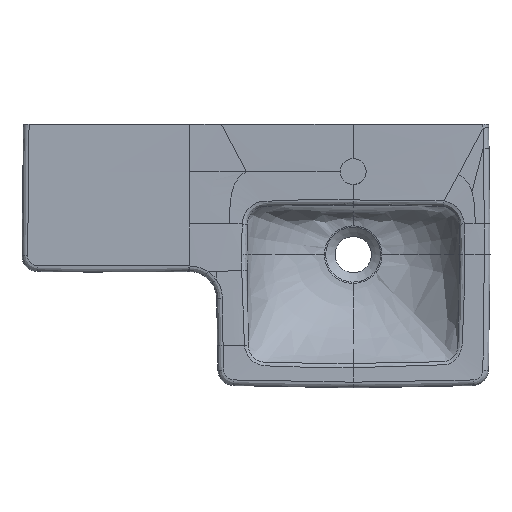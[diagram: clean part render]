
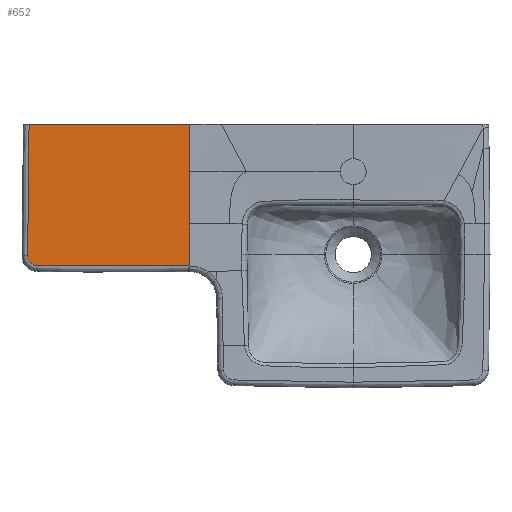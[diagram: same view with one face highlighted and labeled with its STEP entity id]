
A CAD part, top view. The second image highlights one B-rep face of the part: STEP entity #652.
In plain terms, the highlighted free-form (B-spline) face has degree [3, 3] with [6, 4] control points.
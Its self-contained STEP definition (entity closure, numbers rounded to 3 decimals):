
#80=B_SPLINE_SURFACE_WITH_KNOTS('',3,3,((#15106,#15107,#15108,#15109),(#15110,
#15111,#15112,#15113),(#15114,#15115,#15116,#15117),(#15118,#15119,#15120,
#15121),(#15122,#15123,#15124,#15125),(#15126,#15127,#15128,#15129)),
 .UNSPECIFIED.,.F.,.F.,.F.,(4,1,1,4),(4,4),(0.,0.2,0.6,1.),(0.,1.),
 .UNSPECIFIED.);
#349=B_SPLINE_CURVE_WITH_KNOTS('',3,(#5400,#5401,#5402,#5403,#5404),
 .UNSPECIFIED.,.F.,.F.,(4,1,4),(0.,0.482,1.),.UNSPECIFIED.);
#430=B_SPLINE_CURVE_WITH_KNOTS('',3,(#15025,#15026,#15027,#15028),
 .UNSPECIFIED.,.F.,.F.,(4,4),(0.,1.),.UNSPECIFIED.);
#432=B_SPLINE_CURVE_WITH_KNOTS('',3,(#15065,#15066,#15067,#15068,#15069,
#15070),.UNSPECIFIED.,.F.,.F.,(4,2,4),(0.,0.5,1.),.UNSPECIFIED.);
#433=B_SPLINE_CURVE_WITH_KNOTS('',3,(#15073,#15074,#15075,#15076,#15077,
#15078,#15079,#15080,#15081,#15082,#15083,#15084,#15085,#15086),
 .UNSPECIFIED.,.F.,.F.,(4,2,2,2,2,2,4),(0.,0.25,0.375,
0.437,0.469,0.5,1.),.UNSPECIFIED.);
#434=B_SPLINE_CURVE_WITH_KNOTS('',3,(#15088,#15089,#15090,#15091),
 .UNSPECIFIED.,.F.,.F.,(4,4),(0.,1.),.UNSPECIFIED.);
#435=B_SPLINE_CURVE_WITH_KNOTS('',3,(#15093,#15094,#15095,#15096),
 .UNSPECIFIED.,.F.,.F.,(4,4),(0.,1.),.UNSPECIFIED.);
#436=B_SPLINE_CURVE_WITH_KNOTS('',3,(#15098,#15099,#15100,#15101),
 .UNSPECIFIED.,.F.,.F.,(4,4),(0.,1.),.UNSPECIFIED.);
#437=B_SPLINE_CURVE_WITH_KNOTS('',3,(#15102,#15103,#15104,#15105),
 .UNSPECIFIED.,.F.,.F.,(4,4),(0.,1.),.UNSPECIFIED.);
#652=ADVANCED_FACE('',(#798),#80,.F.);
#798=FACE_OUTER_BOUND('',#939,.T.);
#939=EDGE_LOOP('',(#1465,#1466,#1467,#1468,#1469,#1470,#1471,#1472));
#1465=ORIENTED_EDGE('',*,*,#2256,.T.);
#1466=ORIENTED_EDGE('',*,*,#2257,.T.);
#1467=ORIENTED_EDGE('',*,*,#2258,.T.);
#1468=ORIENTED_EDGE('',*,*,#2259,.T.);
#1469=ORIENTED_EDGE('',*,*,#2260,.T.);
#1470=ORIENTED_EDGE('',*,*,#2254,.F.);
#1471=ORIENTED_EDGE('',*,*,#2148,.F.);
#1472=ORIENTED_EDGE('',*,*,#2261,.T.);
#1869=VERTEX_POINT('',#5399);
#1870=VERTEX_POINT('',#5405);
#1936=VERTEX_POINT('',#15029);
#1937=VERTEX_POINT('',#15071);
#1938=VERTEX_POINT('',#15072);
#1939=VERTEX_POINT('',#15087);
#1940=VERTEX_POINT('',#15092);
#1941=VERTEX_POINT('',#15097);
#2148=EDGE_CURVE('',#1869,#1870,#349,.T.);
#2254=EDGE_CURVE('',#1870,#1936,#430,.T.);
#2256=EDGE_CURVE('',#1937,#1938,#432,.T.);
#2257=EDGE_CURVE('',#1938,#1939,#433,.T.);
#2258=EDGE_CURVE('',#1939,#1940,#434,.T.);
#2259=EDGE_CURVE('',#1940,#1941,#435,.T.);
#2260=EDGE_CURVE('',#1941,#1936,#436,.T.);
#2261=EDGE_CURVE('',#1869,#1937,#437,.T.);
#5399=CARTESIAN_POINT('',(-435.809,0.,0.097));
#5400=CARTESIAN_POINT('',(-435.809,0.,0.097));
#5401=CARTESIAN_POINT('',(-401.314,0.,0.533));
#5402=CARTESIAN_POINT('',(-329.783,0.,1.284));
#5403=CARTESIAN_POINT('',(-257.456,0.,1.718));
#5404=CARTESIAN_POINT('',(-220.,0.,1.854));
#5405=CARTESIAN_POINT('',(-220.,0.,1.855));
#15025=CARTESIAN_POINT('',(-220.,0.,1.855));
#15026=CARTESIAN_POINT('',(-220.,-21.202,1.657));
#15027=CARTESIAN_POINT('',(-220.,-42.403,1.46));
#15028=CARTESIAN_POINT('',(-220.,-63.605,1.262));
#15029=CARTESIAN_POINT('',(-220.,-63.605,1.261));
#15065=CARTESIAN_POINT('',(-437.712,-176.779,0.01));
#15066=CARTESIAN_POINT('',(-437.704,-180.279,0.009));
#15067=CARTESIAN_POINT('',(-436.278,-183.693,0.009));
#15068=CARTESIAN_POINT('',(-431.362,-188.696,0.009));
#15069=CARTESIAN_POINT('',(-428.007,-190.166,0.009));
#15070=CARTESIAN_POINT('',(-424.49,-190.25,0.011));
#15071=CARTESIAN_POINT('',(-437.712,-176.779,0.01));
#15072=CARTESIAN_POINT('',(-424.489,-190.25,0.011));
#15073=CARTESIAN_POINT('',(-424.489,-190.25,0.011));
#15074=CARTESIAN_POINT('',(-407.706,-190.652,0.02));
#15075=CARTESIAN_POINT('',(-390.84,-190.958,0.027));
#15076=CARTESIAN_POINT('',(-365.446,-191.27,0.038));
#15077=CARTESIAN_POINT('',(-356.966,-191.35,0.041));
#15078=CARTESIAN_POINT('',(-344.225,-191.431,0.046));
#15079=CARTESIAN_POINT('',(-339.975,-191.452,0.048));
#15080=CARTESIAN_POINT('',(-333.595,-191.474,0.05));
#15081=CARTESIAN_POINT('',(-331.468,-191.48,0.051));
#15082=CARTESIAN_POINT('',(-327.212,-191.489,0.052));
#15083=CARTESIAN_POINT('',(-325.13,-191.491,0.053));
#15084=CARTESIAN_POINT('',(-288.129,-191.511,0.065));
#15085=CARTESIAN_POINT('',(-254.33,-191.11,0.073));
#15086=CARTESIAN_POINT('',(-221.417,-190.356,0.079));
#15087=CARTESIAN_POINT('',(-221.417,-190.356,0.079));
#15088=CARTESIAN_POINT('',(-221.417,-190.356,0.079));
#15089=CARTESIAN_POINT('',(-220.945,-190.345,0.079));
#15090=CARTESIAN_POINT('',(-220.472,-190.342,0.079));
#15091=CARTESIAN_POINT('',(-220.,-190.346,0.079));
#15092=CARTESIAN_POINT('',(-220.,-190.346,0.079));
#15093=CARTESIAN_POINT('',(-220.,-190.346,0.079));
#15094=CARTESIAN_POINT('',(-220.,-171.527,0.254));
#15095=CARTESIAN_POINT('',(-220.,-152.707,0.43));
#15096=CARTESIAN_POINT('',(-220.,-133.888,0.605));
#15097=CARTESIAN_POINT('',(-220.,-133.888,0.606));
#15098=CARTESIAN_POINT('',(-220.,-133.888,0.605));
#15099=CARTESIAN_POINT('',(-220.,-110.46,0.824));
#15100=CARTESIAN_POINT('',(-220.,-87.032,1.042));
#15101=CARTESIAN_POINT('',(-220.,-63.605,1.261));
#15102=CARTESIAN_POINT('',(-435.809,0.,0.097));
#15103=CARTESIAN_POINT('',(-437.206,-58.41,0.057));
#15104=CARTESIAN_POINT('',(-437.854,-117.317,0.037));
#15105=CARTESIAN_POINT('',(-437.712,-176.778,0.01));
#15106=CARTESIAN_POINT('',(-498.786,9.871,-0.818));
#15107=CARTESIAN_POINT('',(-499.879,-62.168,-0.532));
#15108=CARTESIAN_POINT('',(-500.972,-134.208,-0.246));
#15109=CARTESIAN_POINT('',(-502.065,-206.248,0.039));
#15110=CARTESIAN_POINT('',(-480.288,9.909,-0.526));
#15111=CARTESIAN_POINT('',(-481.253,-62.405,-0.342));
#15112=CARTESIAN_POINT('',(-482.218,-134.718,-0.159));
#15113=CARTESIAN_POINT('',(-483.183,-207.032,0.025));
#15114=CARTESIAN_POINT('',(-424.8,10.008,0.297));
#15115=CARTESIAN_POINT('',(-425.374,-63.027,0.193));
#15116=CARTESIAN_POINT('',(-425.949,-136.061,0.089));
#15117=CARTESIAN_POINT('',(-426.523,-209.095,-0.014));
#15118=CARTESIAN_POINT('',(-332.356,10.08,1.332));
#15119=CARTESIAN_POINT('',(-332.236,-63.479,0.867));
#15120=CARTESIAN_POINT('',(-332.116,-137.038,0.401));
#15121=CARTESIAN_POINT('',(-331.996,-210.597,-0.064));
#15122=CARTESIAN_POINT('',(-257.463,10.04,1.804));
#15123=CARTESIAN_POINT('',(-257.413,-63.228,1.174));
#15124=CARTESIAN_POINT('',(-257.364,-136.495,0.544));
#15125=CARTESIAN_POINT('',(-257.314,-209.763,-0.087));
#15126=CARTESIAN_POINT('',(-220.,9.996,1.947));
#15127=CARTESIAN_POINT('',(-220.,-62.952,1.267));
#15128=CARTESIAN_POINT('',(-220.,-135.899,0.587));
#15129=CARTESIAN_POINT('',(-220.,-208.847,-0.094));
